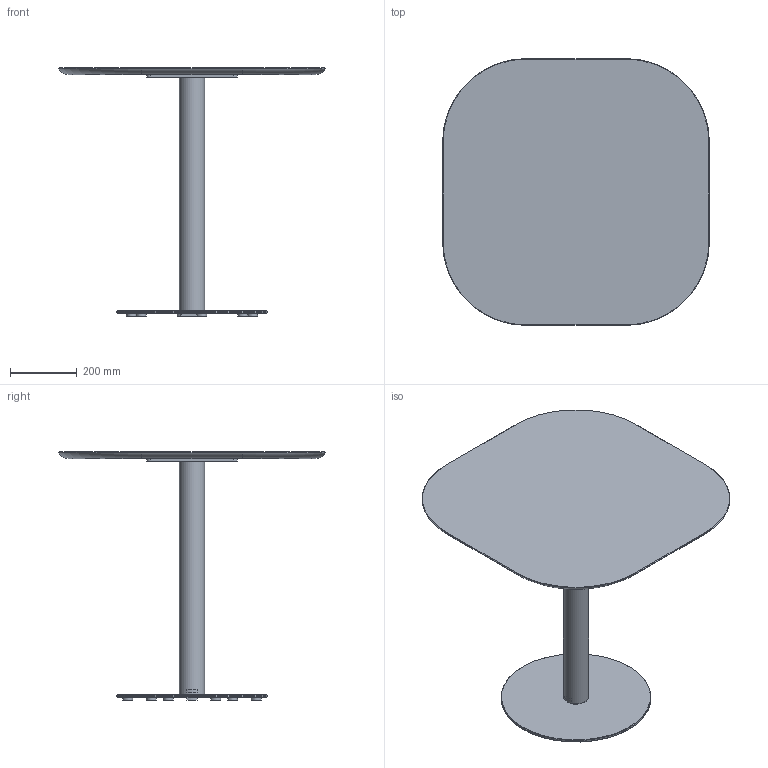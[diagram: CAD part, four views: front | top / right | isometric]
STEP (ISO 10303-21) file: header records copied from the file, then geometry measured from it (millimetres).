
FILE_DESCRIPTION( ('This file contains a STEP AP42 implementation' ,'as created by ZW3D STEP Interface translator.') ,'2;1' );
FILE_NAME( 'Henri - B_Rond - F2 - M3 - 800 x 800 x 750.stp' ,'24 912.152950', (''), ('ZWCAD Software Co.'), 'Version 1.0', 'ZW3D to STEP translator', '' );
FILE_SCHEMA(('AUTOMOTIVE_DESIGN { 1 0 10303 214 1 1 1 1 }'));
Length unit declared in the file: millimetre
Products named in the file (14): 0; PIED BISTROT PARAMETRIQUE_; COLONNE ACIER Ø76 V.02_; TUB-D076-02_; PLA-R76B-01_; SOCLE ACIER C Ø450 V.02_; SCL-D450-02_; PLA-R30A-01_; PLA-R30A-01; CROIX ACIER 370 V.02_; CRX-X370-02_; WUERTH 0276063020 Euro-screw 6.3x2 Verzinkt_; PLATEAU BISTROT PARAMETRIQUE_; insert_m6_13_
Assembly tree (24 placements, depth 3):
  0
  PIED BISTROT PARAMETRIQUE_
    COLONNE ACIER Ø76 V.02_
      TUB-D076-02_
      PLA-R76B-01_  x2
    SOCLE ACIER C Ø450 V.02_
      SCL-D450-02_
      PLA-R30A-01_
      PLA-R30A-01  x5
    CROIX ACIER 370 V.02_
      CRX-X370-02_
    WUERTH 0276063020 Euro-screw 6.3x2 Verzinkt_
    PLATEAU BISTROT PARAMETRIQUE_
      insert_m6_13_  x8
Bounding box: 800 x 800 x 744 mm (x, y, z)
Volume: 13524694.2 mm3; surface area: 2049039.8 mm2
Topology: 21 solids, 21 shells, 524 faces, 1273 edges, 802 vertices
Faces by surface type: plane 250, bspline 121, cylinder 103, cone 45, torus 5
Full cylindrical faces by diameter (mm): 4.88 x1, 6 x8, 6.3 x1, 8 x47, 12 x2, 14 x2, 30 x6, 72 x1, 76 x1, 450 x1
Entity records: 11742 total; most frequent: CARTESIAN_POINT 3302, ORIENTED_EDGE 1526, DIRECTION 1432, EDGE_CURVE 763, VERTEX_POINT 490, AXIS2_PLACEMENT_3D 482, VECTOR 468, LINE 468
